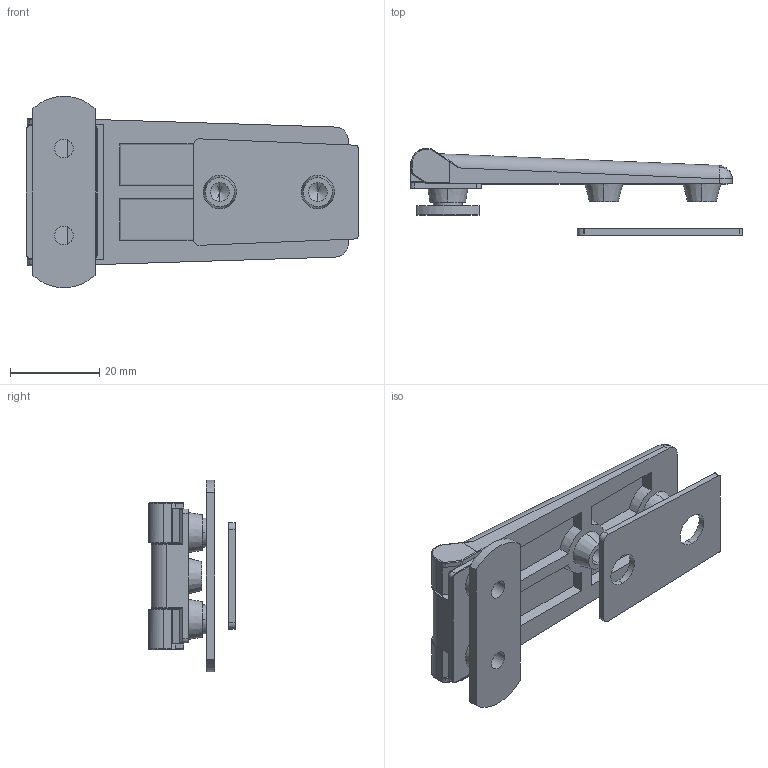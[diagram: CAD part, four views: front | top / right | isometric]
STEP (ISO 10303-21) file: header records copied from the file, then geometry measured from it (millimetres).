
FILE_DESCRIPTION (( 'STEP AP214' ), '1' );
FILE_NAME ('3.ZN3.001.STEP', '2011-12-19T08:49:06', ( '£ukasz Cieæka' ), ( '' ), 'SwSTEP 2.0', 'SolidWorks 2010', '' );
FILE_SCHEMA (( 'AUTOMOTIVE_DESIGN' ));
Length unit declared in the file: millimetre
Products named in the file (5): 3B.ZN3.01.00.00; 3B.ZN3.03.00.00; 3B.ZN3.02.00.00; 3B.ZN3.04.00.00.; 3.ZN3.001
Assembly tree (4 placements, depth 2):
  3.ZN3.001
    3B.ZN3.04.00.00.
    3B.ZN3.03.00.00
    3B.ZN3.01.00.00
    3B.ZN3.02.00.00
Bounding box: 74.5 x 19.35 x 42.93 mm (x, y, z)
Volume: 12813.1 mm3; surface area: 11109.4 mm2
Topology: 4 solids, 4 shells, 207 faces, 544 edges, 343 vertices
Faces by surface type: cylinder 84, plane 78, cone 24, bspline 21
Entity records: 8576 total; most frequent: CARTESIAN_POINT 3507, ORIENTED_EDGE 1066, DIRECTION 889, EDGE_CURVE 533, VERTEX_POINT 343, AXIS2_PLACEMENT_3D 312, VECTOR 265, LINE 265
